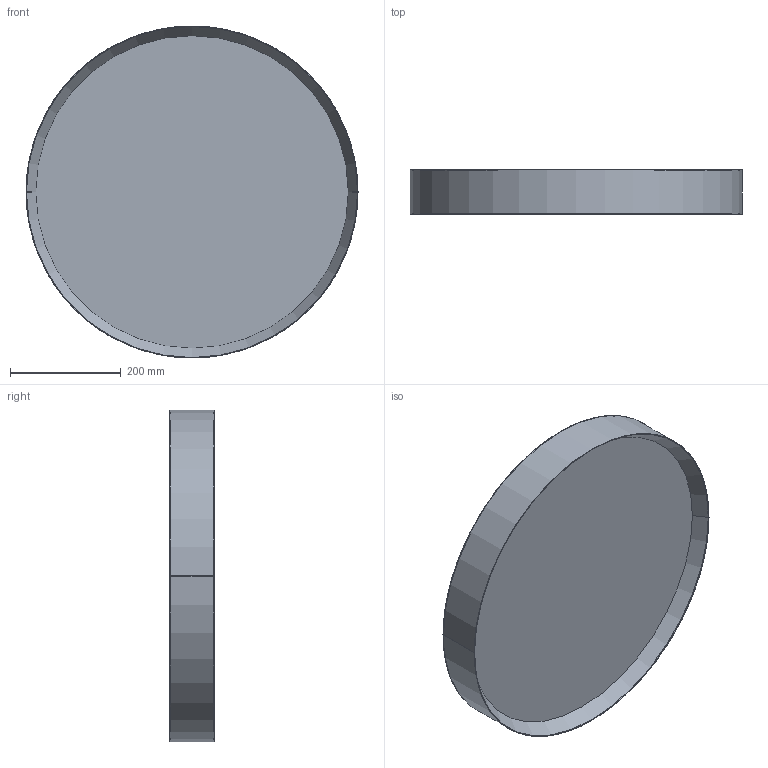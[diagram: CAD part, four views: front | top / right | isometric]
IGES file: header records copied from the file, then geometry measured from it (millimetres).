
Start section: SolidWorks IGES file using analytic representation for surfaces
Global section: file name: \\srvficheros\personales\o.domenech\3D\LIBRERIA_3D\Producto\MINSK-3758\MINSK-P37586\MINSK-P37586-3D.IGS; native system: SolidWorks 2023; preprocessor: SolidWorks 2023; author: o.domenech; date: 240718.131905; units: millimetre
Bounding box: 600 x 80 x 600 mm (x, y, z)
Surface area: 1183463.7 mm2 (no closed solid volume)
Topology: 0 solids, 0 shells, 91 faces, 1765 edges, 2094 vertices
Faces by surface type: revolution 79, bspline 12
